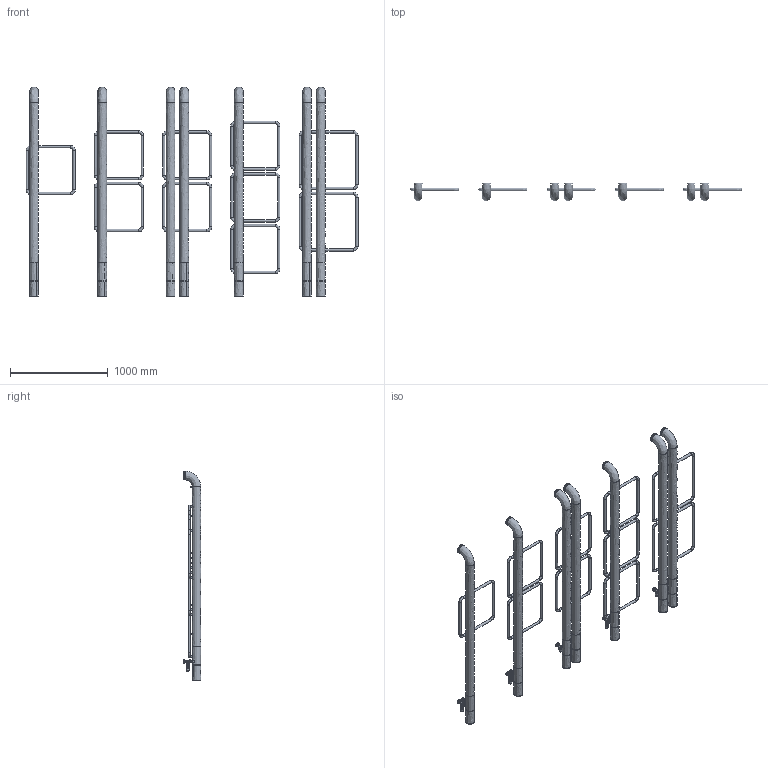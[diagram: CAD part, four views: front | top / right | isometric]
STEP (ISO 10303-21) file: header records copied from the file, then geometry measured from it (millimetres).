
FILE_DESCRIPTION ((), '1');
FILE_NAME ('/Users/melo21casa/Desktop/3D x Diliberto/CHEM-S/CHEM-S 216 5mod 3D.stp', '2025-09-01T13:08:21', ('Unknown'), ('Unknown'), 'HarmonyWare STEP v2.1.7', 'Vectorworks', '');
FILE_SCHEMA (('CONFIG_CONTROL_DESIGN'));
Bounding box: 3405.01 x 184.15 x 2150.95 mm (x, y, z)
Volume: 94067260.4 mm3; surface area: 7295870 mm2
Topology: 201 solids, 3273 shells, 4301 faces, 14476 edges, 13388 vertices
Faces by surface type: bspline 4301
Entity records: 218030 total; most frequent: CARTESIAN_POINT 139761, ORIENTED_EDGE 16703, EDGE_CURVE 14223, VERTEX_POINT 13388, B_SPLINE_CURVE_WITH_KNOTS 11502, EDGE_LOOP 4531, FACE_OUTER_BOUND 4301, ADVANCED_FACE 4301
